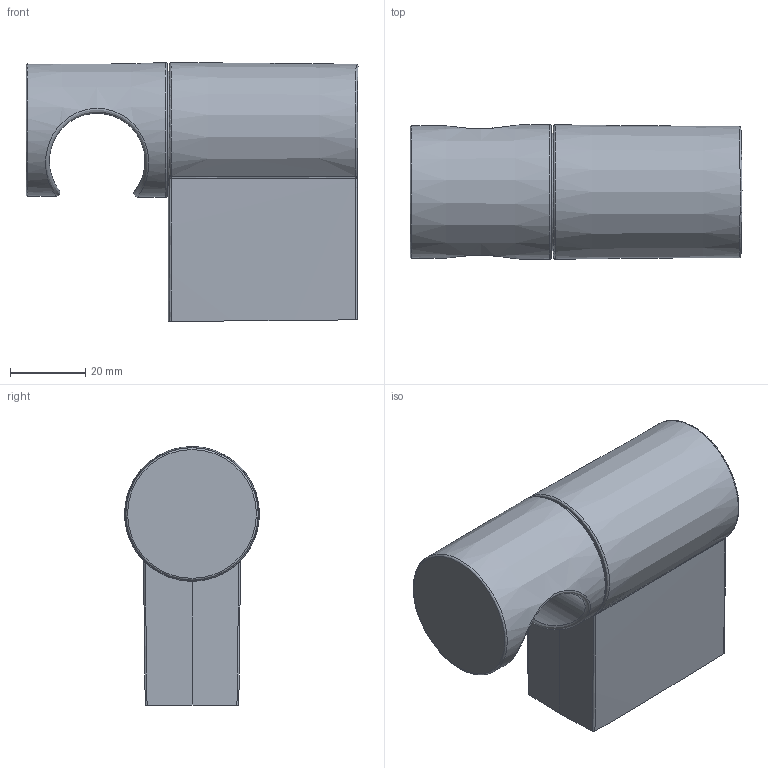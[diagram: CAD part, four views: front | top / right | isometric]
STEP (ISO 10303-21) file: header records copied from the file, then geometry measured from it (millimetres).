
FILE_DESCRIPTION (( 'STEP AP203' ), '1' );
FILE_NAME ('251080.STEP', '2017-03-09T05:46:53', ( '' ), ( '' ), 'SwSTEP 2.0', 'SolidWorks 2016', '' );
FILE_SCHEMA (( 'CONFIG_CONTROL_DESIGN' ));
Length unit declared in the file: millimetre
Products named in the file (1): 251080
Bounding box: 88.41 x 35.92 x 68.96 mm (x, y, z)
Volume: 117120.8 mm3; surface area: 17882.3 mm2
Topology: 1 solids, 1 shells, 32 faces, 78 edges, 47 vertices
Faces by surface type: bspline 16, cone 5, torus 4, plane 3, sphere 2, cylinder 2
Entity records: 3816 total; most frequent: CARTESIAN_POINT 3202, ORIENTED_EDGE 130, DIRECTION 70, EDGE_CURVE 65, B_SPLINE_CURVE_WITH_KNOTS 46, VERTEX_POINT 42, EDGE_LOOP 39, FACE_OUTER_BOUND 36
